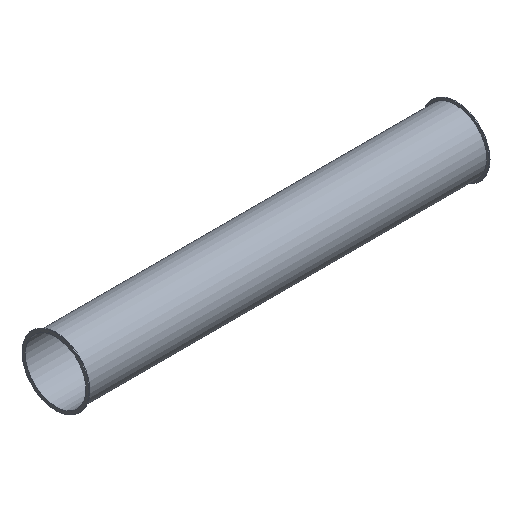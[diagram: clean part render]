
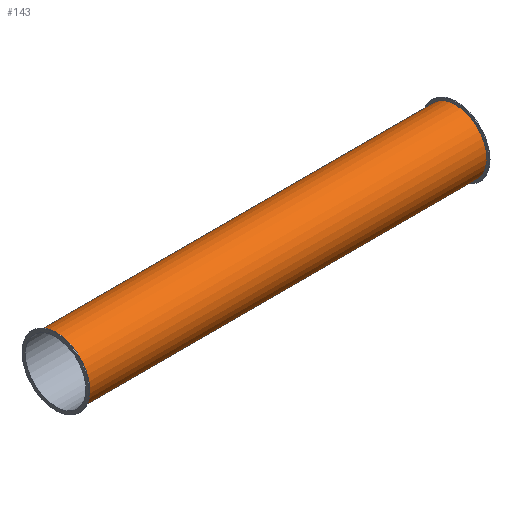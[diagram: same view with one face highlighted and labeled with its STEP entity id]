
A CAD part, isometric view. The second image highlights one B-rep face of the part: STEP entity #143.
In plain terms, the highlighted cylindrical face has radius 76.5 mm (diameter 153 mm), a full revolution.
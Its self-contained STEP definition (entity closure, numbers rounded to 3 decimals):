
#112=CARTESIAN_POINT('',(952.119,2.817,0.0));
#113=VERTEX_POINT('',#112);
#114=CARTESIAN_POINT('',(952.119,79.317,0.0));
#115=DIRECTION('',(-1.0,0.0,0.0));
#116=DIRECTION('',(0.0,-1.0,0.0));
#117=AXIS2_PLACEMENT_3D('',#114,#115,#116);
#118=CIRCLE('',#117,76.5);
#119=EDGE_CURVE('',#113,#113,#118,.T.);
#124=CARTESIAN_POINT('',(461.119,79.317,0.0));
#125=DIRECTION('',(-1.0,0.,0.0));
#126=DIRECTION('',(0.0,-1.0,0.0));
#127=AXIS2_PLACEMENT_3D('',#124,#125,#126);
#128=CYLINDRICAL_SURFACE('',#127,76.5);
#129=CARTESIAN_POINT('',(-29.881,2.817,0.0));
#130=VERTEX_POINT('',#129);
#131=CARTESIAN_POINT('',(-29.881,79.317,0.0));
#132=DIRECTION('',(-1.0,0.0,0.0));
#133=DIRECTION('',(0.0,-1.0,0.0));
#134=AXIS2_PLACEMENT_3D('',#131,#132,#133);
#135=CIRCLE('',#134,76.5);
#136=EDGE_CURVE('',#130,#130,#135,.T.);
#137=ORIENTED_EDGE('',*,*,#136,.F.);
#138=EDGE_LOOP('',(#137));
#139=FACE_OUTER_BOUND('',#138,.T.);
#140=ORIENTED_EDGE('',*,*,#119,.T.);
#141=EDGE_LOOP('',(#140));
#142=FACE_BOUND('',#141,.T.);
#143=ADVANCED_FACE('',(#139,#142),#128,.T.);
